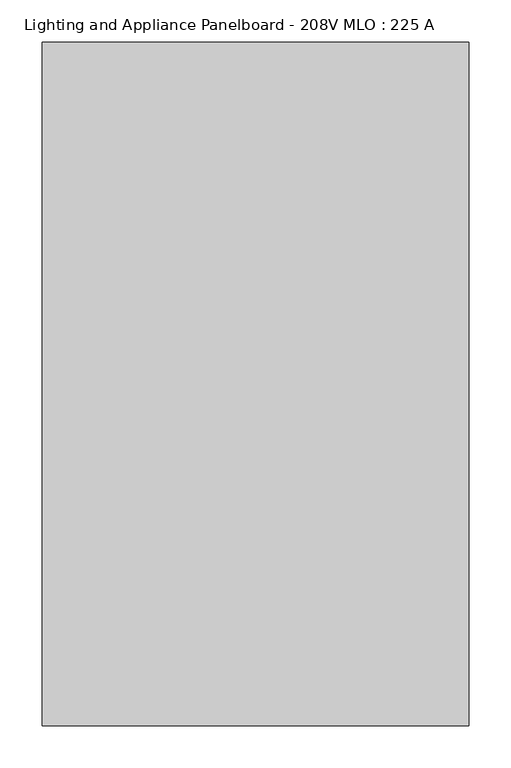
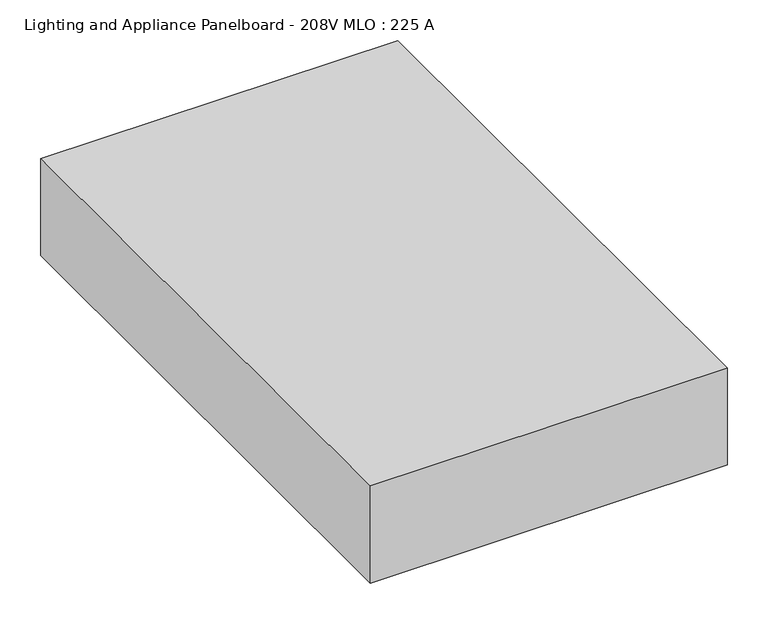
"""IFC4 building model written with IfcOpenShell, lengths in millimetres: proxy geometry, Lighting and Appliance Panelboard - 208V MLO : 225 A."""

from ifc_helpers import new_model, si_unit, frame, origin, place, context, project, spatial, polyline, outline, extrude, source, transform, mapped, element, save


def lighting_and_appliance_panelboard_208v_mlo_225_a_aa572dd3(model_context):
    return source(origin(), model_context, "Body", "SweptSolid", [
        extrude(outline(polyline([(254.0, 406.5), (254.0, -406.5), (-254.0, -406.5), (-254.0, 406.5), (254.0, 406.5)])), frame((0.0, 0.0, -146.0), z_axis=(0.0, 0.0, 1.0), x_axis=(1.0, 0.0, 0.0)), (0.0, 0.0, 1.0), 146.0),
    ])


if __name__ == "__main__":
    model = new_model("IFC4")
    model_context = context("Model", 3, world=origin())
    ifc_project = project(units=[si_unit("LENGTHUNIT", "METRE", prefix="MILLI")], contexts=[model_context])
    site = spatial("IfcSite", under=ifc_project)
    building = spatial("IfcBuilding", under=site)
    placement = place(None, origin())
    lighting_and_appliance_panelboard_208v_mlo_225_a_shape = lighting_and_appliance_panelboard_208v_mlo_225_a_aa572dd3(model_context)
    element("IfcBuildingElementProxy", 1, Name="Lighting and Appliance Panelboard - 208V MLO : 225 A", ObjectType="Lighting and Appliance Panelboard - 208V MLO : 225 A", at=placement, inside=building, context=model_context, shape_type="MappedRepresentation", body=[
        mapped(lighting_and_appliance_panelboard_208v_mlo_225_a_shape, transform((0.0, 0.0, 0.0), x_axis=(1.0, 0.0, 0.0), y_axis=(0.0, 1.0, 0.0), z_axis=(0.0, 0.0, 1.0))),
    ])
    save(model, "model.ifc")
